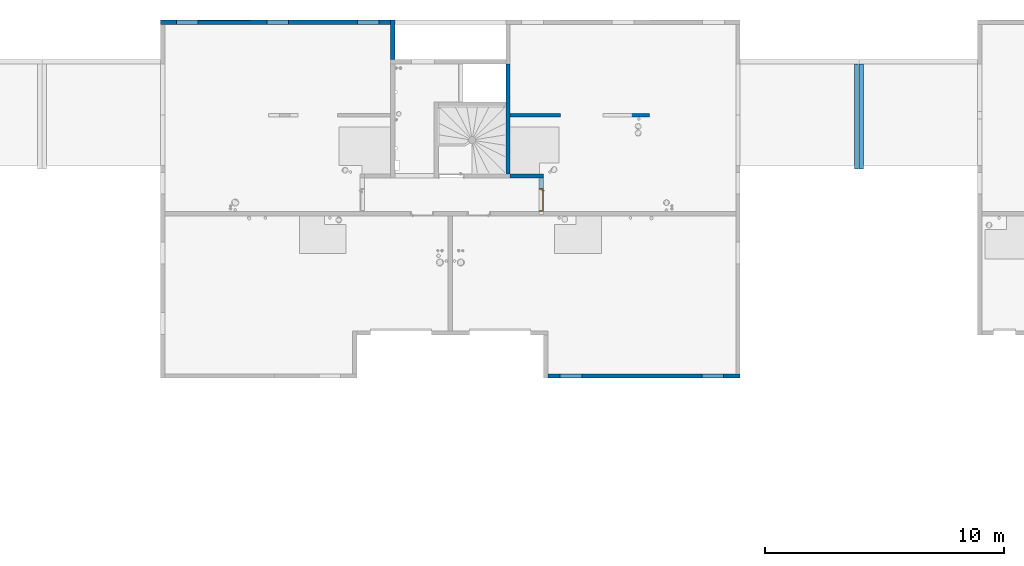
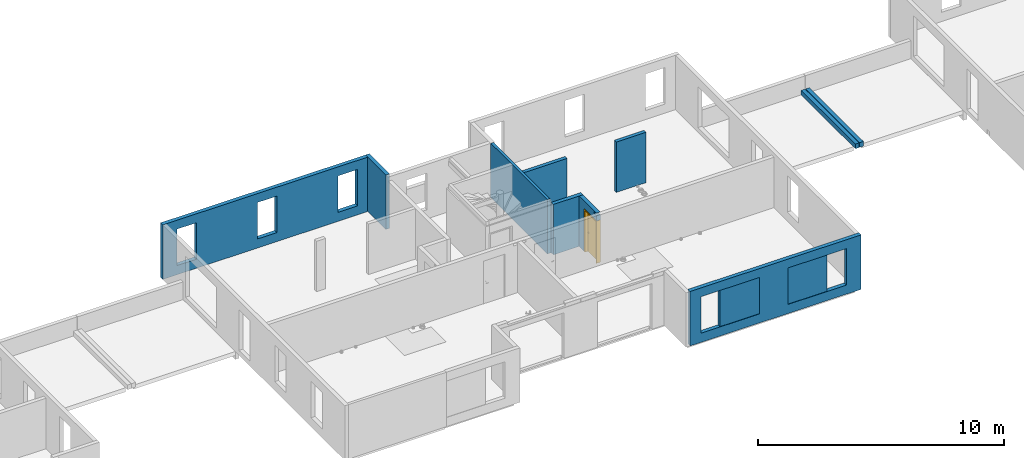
# One storey, part 10 of 24: 10 walls, 1 door, 11 openings.
"""IFC2X3 building model written with IfcOpenShell, lengths in centimetres."""

import ifcopenshell
import ifcopenshell.guid

model = None  # the IFC model being written
_history = None  # IfcOwnerHistory: only IFC2X3 demands one
_inside = {}  # id of a spatial element -> (the spatial element, [elements in it])
_under = {}  # id of a project, library or spatial element -> (it, [spatial elements below it])
_declared = {}  # id of a project -> (the project, [libraries it declares])
_typed = {}  # id of a type object -> (the type object, [elements of that type])
_made_of = {}  # id of a material, layer set ... -> (it, [elements and type objects made of it])


def new_model(schema):
    """Start an empty IFC model of exactly this schema.

    Asked for "IFC4X3", IfcOpenShell would pick the latest addendum, in which some entities
    have other attributes; the version numbers below select the first issue.
    IFC2X3 requires an IfcOwnerHistory on every rooted entity: one is made here for all.
    """
    global model, _history
    if schema == "IFC4X3":
        model = ifcopenshell.file(schema_version=(4, 3, 0, 0))
    else:
        model = ifcopenshell.file(schema=schema)
    _inside.clear()
    _under.clear()
    _declared.clear()
    _typed.clear()
    _made_of.clear()
    _history = None
    if model.schema == "IFC2X3":
        org = make("IfcOrganization", Name="unknown")
        user = make(
            "IfcPersonAndOrganization",
            ThePerson=make("IfcPerson", FamilyName="unknown"),
            TheOrganization=org,
        )
        app = make(
            "IfcApplication",
            ApplicationDeveloper=org,
            Version="unknown",
            ApplicationFullName="unknown",
            ApplicationIdentifier="unknown",
        )
        _history = make(
            "IfcOwnerHistory",
            OwningUser=user,
            OwningApplication=app,
            ChangeAction="ADDED",
            CreationDate=0,
        )
    return model


def make(cls, **values):
    """One entity of the class cls with the attributes given. An attribute that is None is left unset."""
    return model.create_entity(
        cls, **{name: value for name, value in values.items() if value is not None}
    )


def entity(cls, *values):
    """Any entity or typed value of the class cls, its attributes in the order of the schema. None: left unset."""
    e = model.create_entity(cls)
    for i, value in enumerate(values):
        if value is not None:
            e[i] = value
    return e


def rooted(cls, **values):
    """An entity with a GlobalId (a new one), such as an element, a storey or a relation."""
    return make(cls, GlobalId=ifcopenshell.guid.new(), OwnerHistory=_history, **values)


def si_unit(unit_type, name, prefix=None):
    """IfcSIUnit, for example si_unit("LENGTHUNIT", "METRE", prefix="MILLI")."""
    return make("IfcSIUnit", UnitType=unit_type, Prefix=prefix, Name=name)


def converted_unit(unit_type, name, factor, base, dimensions=None, offset=None):
    """IfcConversionBasedUnit, such as the inch: factor (a typed value) times the base unit."""
    return make(
        "IfcConversionBasedUnit"
        if offset is None
        else "IfcConversionBasedUnitWithOffset",
        ConversionOffset=offset,
        Dimensions=None
        if dimensions is None
        else entity("IfcDimensionalExponents", *dimensions),
        UnitType=unit_type,
        Name=name,
        ConversionFactor=make(
            "IfcMeasureWithUnit", ValueComponent=factor, UnitComponent=base
        ),
    )


def derived_unit(unit_type, elements):
    """IfcDerivedUnit: a product of units, each with its exponent."""
    return make(
        "IfcDerivedUnit",
        Elements=[
            make("IfcDerivedUnitElement", Unit=unit, Exponent=power)
            for unit, power in elements
        ],
        UnitType=unit_type,
    )


def assignment(units):
    """IfcUnitAssignment: the units of a project."""
    return None if units is None else make("IfcUnitAssignment", Units=units)


def point(xyz):
    """IfcCartesianPoint."""
    return None if xyz is None else make("IfcCartesianPoint", Coordinates=xyz)


def direction(xyz):
    """IfcDirection."""
    return None if xyz is None else make("IfcDirection", DirectionRatios=xyz)


def frame(location, z_axis=None, x_axis=None):
    """IfcAxis2Placement3D, a coordinate frame: its origin and axes. An axis left out is left unset."""
    return make(
        "IfcAxis2Placement3D",
        Location=point(location),
        Axis=direction(z_axis),
        RefDirection=direction(x_axis),
    )


def frame_2d(location, x_axis=None):
    """IfcAxis2Placement2D, a coordinate frame in the plane: its origin and x axis."""
    return make(
        "IfcAxis2Placement2D", Location=point(location), RefDirection=direction(x_axis)
    )


def origin():
    """The frame at (0, 0, 0) with its axes left unset."""
    return frame((0.0, 0.0, 0.0))


def place(relative_to, where):
    """IfcLocalPlacement: puts the frame where relative to a parent placement (None: the world)."""
    return make(
        "IfcLocalPlacement", PlacementRelTo=relative_to, RelativePlacement=where
    )


def context(
    kind, dimensions, precision=None, world=None, true_north=None, identifier=None
):
    """IfcGeometricRepresentationContext, for example the 3D "Model" context."""
    return make(
        "IfcGeometricRepresentationContext",
        ContextIdentifier=identifier,
        ContextType=kind,
        CoordinateSpaceDimension=dimensions,
        Precision=precision,
        WorldCoordinateSystem=world,
        TrueNorth=true_north,
    )


def subcontext(parent, identifier, kind, view, scale=None):
    """IfcGeometricRepresentationSubContext, for example "Body" below "Model"."""
    return make(
        "IfcGeometricRepresentationSubContext",
        ContextIdentifier=identifier,
        ContextType=kind,
        ParentContext=parent,
        TargetScale=scale,
        TargetView=view,
    )


def project(units=None, contexts=None):
    """IfcProject with its units and contexts."""
    return rooted(
        "IfcProject",
        Name="project",
        RepresentationContexts=contexts,
        UnitsInContext=assignment(units),
    )


def spatial(cls, under=None, at=None, **own):
    """A site, building, storey or space (cls), placed at a placement, below another one or the project."""
    s = rooted(cls, ObjectPlacement=at, **own)
    if under is not None:
        _under.setdefault(under.id(), (under, []))[1].append(s)
    return s


def polyline(points):
    """IfcPolyline through the points."""
    return make("IfcPolyline", Points=[point(p) for p in points])


def profile(cls, at=None, kind="AREA", **sizes):
    """A parametric profile (cls). Its sizes go by their IFC names, for example OverallWidth=200.0."""
    return make(cls, ProfileType=kind, Position=at, **sizes)


def rectangle(**sizes):
    """IfcRectangleProfileDef."""
    return profile("IfcRectangleProfileDef", **sizes)


def extrude(swept, where, along, depth):
    """IfcExtrudedAreaSolid: the profile swept, set in the frame where, extruded along a direction by depth."""
    return make(
        "IfcExtrudedAreaSolid",
        SweptArea=swept,
        Position=where,
        ExtrudedDirection=direction(along),
        Depth=depth,
    )


def clip(a, b, op="DIFFERENCE"):
    """IfcBooleanClippingResult: the solid a cut by the half space b."""
    return make(
        "IfcBooleanClippingResult", Operator=op, FirstOperand=a, SecondOperand=b
    )


def bounded_halfspace(plane, agree, where, boundary):
    """IfcPolygonalBoundedHalfSpace: a half space limited to a polygon's prism."""
    return make(
        "IfcPolygonalBoundedHalfSpace",
        BaseSurface=make("IfcPlane", Position=plane),
        AgreementFlag=agree,
        Position=where,
        PolygonalBoundary=boundary,
    )


def faces_of(points, faces, orient=None, outer=None):
    """IfcFace entities. A face is a list of loops; a loop is a list of indices into points, from 0.

    orient and outer hold one flag for each loop. By default every Orientation is true, the
    first loop of a face is its IfcFaceOuterBound and the others are IfcFaceBound.
    """
    made = []
    for i, loops in enumerate(faces):
        bounds = []
        for j, loop in enumerate(loops):
            is_outer = j == 0 if outer is None else outer[i][j]
            bounds.append(
                make(
                    "IfcFaceOuterBound" if is_outer else "IfcFaceBound",
                    Bound=make("IfcPolyLoop", Polygon=[points[k] for k in loop]),
                    Orientation=True if orient is None else orient[i][j],
                )
            )
        made.append(make("IfcFace", Bounds=bounds))
    return made


def faceted_brep(points, faces, orient=None, outer=None, voids=None):
    """IfcFacetedBrep: a solid bounded by flat faces; with voids (closed shells), ...WithVoids."""
    shared = [point(p) for p in points]
    hull = make("IfcClosedShell", CfsFaces=faces_of(shared, faces, orient, outer))
    if voids is None:
        return make("IfcFacetedBrep", Outer=hull)
    return make(
        "IfcFacetedBrepWithVoids",
        Outer=hull,
        Voids=[
            make(cls, CfsFaces=faces_of(shared, fs, o, b)) for cls, fs, o, b in voids
        ],
    )


def shape(context_of_items, identifier, shape_type, items):
    """IfcShapeRepresentation: the items that make up one representation, for example the "Body"."""
    return make(
        "IfcShapeRepresentation",
        ContextOfItems=context_of_items,
        RepresentationIdentifier=identifier,
        RepresentationType=shape_type,
        Items=items,
    )


def source(mapping_origin, context_of_items, identifier, shape_type, items):
    """IfcRepresentationMap: a shape defined once, which mapped items show again and again."""
    return make(
        "IfcRepresentationMap",
        MappingOrigin=mapping_origin,
        MappedRepresentation=shape(context_of_items, identifier, shape_type, items),
    )


def transform(
    local_origin,
    x_axis=None,
    y_axis=None,
    z_axis=None,
    scale=None,
    scale2=None,
    scale3=None,
    uniform=True,
):
    """IfcCartesianTransformationOperator3D, or its non-uniform kind. x_axis, y_axis, z_axis: its Axis1, 2, 3."""
    if uniform:
        return make(
            "IfcCartesianTransformationOperator3D",
            Axis1=direction(x_axis),
            Axis2=direction(y_axis),
            LocalOrigin=point(local_origin),
            Scale=scale,
            Axis3=direction(z_axis),
        )
    return make(
        "IfcCartesianTransformationOperator3DnonUniform",
        Axis1=direction(x_axis),
        Axis2=direction(y_axis),
        LocalOrigin=point(local_origin),
        Scale=scale,
        Axis3=direction(z_axis),
        Scale2=scale2,
        Scale3=scale3,
    )


def mapped(mapping_source, mapping_target):
    """IfcMappedItem: shows the shape of a source again, moved by a transform."""
    return make(
        "IfcMappedItem", MappingSource=mapping_source, MappingTarget=mapping_target
    )


def material(Name=None, Category=None):
    """IfcMaterial."""
    return make("IfcMaterial", Name=Name, Category=Category)


def material_list(materials):
    """IfcMaterialList."""
    return make("IfcMaterialList", Materials=materials)


def layer(
    of_material, thickness, ventilated=None, Name=None, Category=None, Priority=None
):
    """IfcMaterialLayer: one layer of a wall or slab, of a material (None: an air gap)."""
    return make(
        "IfcMaterialLayer",
        Material=of_material,
        LayerThickness=thickness,
        IsVentilated=ventilated,
        Name=Name,
        Category=Category,
        Priority=Priority,
    )


def layer_set(layers, Name=None):
    """IfcMaterialLayerSet."""
    return make("IfcMaterialLayerSet", MaterialLayers=layers, LayerSetName=Name)


def layer_usage(for_layer_set, set_direction, sense, offset, extent=None):
    """IfcMaterialLayerSetUsage: how a layer set lies in its element."""
    return make(
        "IfcMaterialLayerSetUsage",
        ForLayerSet=for_layer_set,
        LayerSetDirection=set_direction,
        DirectionSense=sense,
        OffsetFromReferenceLine=offset,
        ReferenceExtent=extent,
    )


def made_of(thing, what):
    """Note that an element or type object is made of a material, layer set ...; save() writes the relation."""
    if what is not None:
        _made_of.setdefault(what.id(), (what, []))[1].append(thing)
    return thing


def type_object(cls, material=None, **own):
    """A type object (cls), such as IfcWallType, which elements share."""
    return made_of(rooted(cls, **own), material)


def type_shapes(of_type, sources):
    """Give a type object the sources (RepresentationMaps) that its elements show as mapped items."""
    of_type.RepresentationMaps = sources


def element(
    cls,
    number,
    at=None,
    inside=None,
    cuts=None,
    type_object=None,
    material=None,
    context=None,
    identifier="Body",
    shape_type=None,
    held_by="IfcProductDefinitionShape",
    body=None,
    shapes=None,
    **own,
):
    """One element of the class cls, such as IfcWall. Its Tag is "e" and its number.

    at: its placement. inside: the storey or other place that contains it. cuts: it is an
    opening in that element (IfcRelVoidsElement). A single representation is given by context,
    identifier, shape_type and body (its items); several are given by shapes. held_by: the class
    of the entity that holds the representations. save() writes the other relations.
    """
    e = rooted(cls, Tag="e%d" % number, ObjectPlacement=at, **own)
    if body is not None:
        shapes = [shape(context, identifier, shape_type, body)]
    if shapes is not None:
        e.Representation = make(held_by, Representations=shapes)
    if inside is not None:
        _inside.setdefault(inside.id(), (inside, []))[1].append(e)
    if cuts is not None:
        rooted(
            "IfcRelVoidsElement", RelatingBuildingElement=cuts, RelatedOpeningElement=e
        )
    if type_object is not None:
        _typed.setdefault(type_object.id(), (type_object, []))[1].append(e)
    return made_of(e, material)


def fill(opening, filler):
    """IfcRelFillsElement: the door or window that sits in an opening."""
    return rooted(
        "IfcRelFillsElement",
        RelatingOpeningElement=opening,
        RelatedBuildingElement=filler,
    )


def aggregate(whole, parts):
    """IfcRelAggregates: a whole, such as a stair, and the parts it consists of."""
    return rooted("IfcRelAggregates", RelatingObject=whole, RelatedObjects=parts)


def save(model, path):
    """Write the relations noted so far, then the file.

    IfcRelAggregates (storeys below a building ...), IfcRelContainedInSpatialStructure (elements
    in a storey), IfcRelDefinesByType, IfcRelAssociatesMaterial and IfcRelDeclares: one each for
    every whole, place, type object, material and project.
    """
    for whole, parts in _under.values():
        aggregate(whole, parts)
    for where, things in _inside.values():
        rooted(
            "IfcRelContainedInSpatialStructure",
            RelatedElements=things,
            RelatingStructure=where,
        )
    for kind, things in _typed.values():
        rooted("IfcRelDefinesByType", RelatedObjects=things, RelatingType=kind)
    for what, things in _made_of.values():
        rooted("IfcRelAssociatesMaterial", RelatedObjects=things, RelatingMaterial=what)
    for by, libraries in _declared.values():
        rooted("IfcRelDeclares", RelatingContext=by, RelatedDefinitions=libraries)
    model.write(path)


model = new_model("IFC2X3")

# Units and contexts
model_context = context("Model", 3, precision=0.001, world=origin(), true_north=direction((6.12303176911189e-17, 1.0)))
body_context = subcontext(model_context, "Body", "Model", "MODEL_VIEW")
ifc_project = project(units=[si_unit("LENGTHUNIT", "METRE", prefix="CENTI"), si_unit("AREAUNIT", "SQUARE_METRE"), si_unit("VOLUMEUNIT", "CUBIC_METRE"), converted_unit("PLANEANGLEUNIT", "DEGREE", entity("IfcRatioMeasure", 0.0174532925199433), si_unit("PLANEANGLEUNIT", "RADIAN"), dimensions=[0, 0, 0, 0, 0, 0, 0]), si_unit("MASSUNIT", "GRAM", prefix="KILO"), derived_unit("MASSDENSITYUNIT", [(si_unit("MASSUNIT", "GRAM", prefix="KILO"), 1), (si_unit("LENGTHUNIT", "METRE"), -3)]), si_unit("TIMEUNIT", "SECOND"), si_unit("FREQUENCYUNIT", "HERTZ"), si_unit("THERMODYNAMICTEMPERATUREUNIT", "DEGREE_CELSIUS"), derived_unit("THERMALTRANSMITTANCEUNIT", [(si_unit("MASSUNIT", "GRAM", prefix="KILO"), 1), (si_unit("THERMODYNAMICTEMPERATUREUNIT", "KELVIN"), -1), (si_unit("TIMEUNIT", "SECOND"), -3)]), derived_unit("VOLUMETRICFLOWRATEUNIT", [(si_unit("LENGTHUNIT", "METRE"), 3), (si_unit("TIMEUNIT", "SECOND"), -1)]), si_unit("ELECTRICCURRENTUNIT", "AMPERE"), si_unit("ELECTRICVOLTAGEUNIT", "VOLT"), si_unit("POWERUNIT", "WATT"), si_unit("FORCEUNIT", "NEWTON"), si_unit("ILLUMINANCEUNIT", "LUX"), si_unit("LUMINOUSFLUXUNIT", "LUMEN"), si_unit("LUMINOUSINTENSITYUNIT", "CANDELA"), derived_unit("USERDEFINED", [(si_unit("MASSUNIT", "GRAM", prefix="KILO"), -1), (si_unit("LENGTHUNIT", "METRE"), -2), (si_unit("TIMEUNIT", "SECOND"), 3), (si_unit("LUMINOUSFLUXUNIT", "LUMEN"), 1)]), derived_unit("LINEARVELOCITYUNIT", [(si_unit("LENGTHUNIT", "METRE"), 1), (si_unit("TIMEUNIT", "SECOND"), -1)]), si_unit("PRESSUREUNIT", "PASCAL"), derived_unit("USERDEFINED", [(si_unit("LENGTHUNIT", "METRE"), -2), (si_unit("MASSUNIT", "GRAM", prefix="KILO"), 1), (si_unit("TIMEUNIT", "SECOND"), -2)])], contexts=[model_context])

# Site, building, storey
site_placement = place(None, origin())
site = spatial("IfcSite", under=ifc_project, at=site_placement, Name="Default", CompositionType="ELEMENT")
building_placement = place(site_placement, origin())
building = spatial("IfcBuilding", under=site, at=building_placement, Name="CAGE 03", CompositionType="ELEMENT")
storey_placement = place(building_placement, frame((0.0, 0.0, 880.0)))
storey = spatial("IfcBuildingStorey", under=building, at=storey_placement, Name="R+3", CompositionType="ELEMENT", Elevation=880.0)

# Wall, openings
ifc_material_1 = material(Name="Béton, C25/30")
ifc_layer_1 = layer(ifc_material_1, 18.0)
ifc_layer_set_1 = layer_set([ifc_layer_1], Name="Mur de base:Voile BA 18")
ifc_layer_usage_1 = layer_usage(ifc_layer_set_1, "AXIS2", "POSITIVE", -9.0)
wall_type_1 = type_object("IfcWallType", Name="Mur de base:Voile BA 18", PredefinedType="STANDARD", material=ifc_layer_set_1)
wall_1_placement = place(storey_placement, frame((7489.36582014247, 3805.6606660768, 0.0)))
wall_1 = element("IfcWallStandardCase", 1, at=wall_1_placement, inside=storey, type_object=wall_type_1, material=ifc_layer_usage_1, Name="Mur de base:Voile BA 18", ObjectType="Mur de base:Voile BA 18", context=body_context, shape_type="SweptSolid", body=[
    extrude(rectangle(XDim=803.000000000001, YDim=18.0000000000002, at=frame_2d((401.500000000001, -2.8421709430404e-14), x_axis=(-1.0, 0.0))), origin(), (0.0, 0.0, 1.0), 270.0),
])
opening_1_placement = place(wall_1_placement, origin())
element("IfcOpeningElement", 2, at=opening_1_placement, cuts=wall_1, Name="Mur de base:Voile BA 18", ObjectType="Recess", context=body_context, shape_type="SweptSolid", body=[
    extrude(rectangle(XDim=181.0, YDim=184.0, at=frame_2d((-1.06581410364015e-13, 0.0), x_axis=(1.0, 0.0))), frame((234.0, -9.0, 135.5), z_axis=(0.0, 1.0, 0.0), x_axis=(0.0, 0.0, -1.0)), (0.0, 0.0, 1.0), 1.99999999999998),
])
opening_2_placement = place(wall_1_placement, origin())
element("IfcOpeningElement", 3, at=opening_2_placement, cuts=wall_1, Name="Mur de base:Voile BA 18", ObjectType="Recess", context=body_context, shape_type="SweptSolid", body=[
    extrude(rectangle(XDim=181.0, YDim=184.0, at=frame_2d((-1.06581410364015e-13, 0.0), x_axis=(1.0, 0.0))), frame((551.0, -9.0, 135.5), z_axis=(0.0, 1.0, 0.0), x_axis=(0.0, 0.0, -1.0)), (0.0, 0.0, 1.0), 1.99999999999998),
])
opening_3_placement = place(wall_1_placement, origin())
element("IfcOpeningElement", 4, at=opening_3_placement, cuts=wall_1, Name="Mur de base:Voile BA 18", ObjectType="Recess", context=body_context, shape_type="SweptSolid", body=[
    extrude(rectangle(XDim=181.0, YDim=184.0, at=frame_2d((-1.06581410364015e-13, 0.0), x_axis=(1.0, 0.0))), frame((-1050.0, -9.0, 135.5), z_axis=(0.0, 1.0, 0.0), x_axis=(0.0, 0.0, -1.0)), (0.0, 0.0, 1.0), 1.99999999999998),
])
opening_4_placement = place(wall_1_placement, frame((-7489.36582014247, -3805.6606660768, 0.0)))
element("IfcOpeningElement", 5, at=opening_4_placement, cuts=wall_1, Name="Mur de base:Voile BA 18", ObjectType="Opening", context=body_context, shape_type="SweptSolid", body=[
    extrude(rectangle(XDim=181.0, YDim=91.0000000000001, at=frame_2d((0.0, 0.0), x_axis=(0.0, 1.0))), frame((7585.86582014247, 3644.2606660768, 135.5), z_axis=(0.0, 1.0, 0.0), x_axis=(-1.0, 0.0, 0.0)), (0.0, 0.0, 1.0), 304.8),
])
opening_5_placement = place(wall_1_placement, frame((-7489.36582014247, -3805.6606660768, 0.0)))
element("IfcOpeningElement", 6, at=opening_5_placement, cuts=wall_1, Name="Mur de base:Voile BA 18", ObjectType="Opening", context=body_context, shape_type="SweptSolid", body=[
    extrude(rectangle(XDim=181.0, YDim=91.0000000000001, at=frame_2d((0.0, 0.0), x_axis=(0.0, 1.0))), frame((8177.86582014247, 3644.2606660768, 135.5), z_axis=(0.0, 1.0, 0.0), x_axis=(-1.0, 0.0, 0.0)), (0.0, 0.0, 1.0), 304.8),
])

# Wall
ifc_layer_usage_2 = layer_usage(ifc_layer_set_1, "AXIS2", "POSITIVE", -9.0)
wall_2_placement = place(storey_placement, frame((6840.36582014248, 5128.6606660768, 0.0), z_axis=(0.0, 0.0, 1.0), x_axis=(0.0, 1.0, 0.0)))
element("IfcWallStandardCase", 7, at=wall_2_placement, inside=storey, type_object=wall_type_1, material=ifc_layer_usage_2, Name="Mur de base:Voile BA 18", ObjectType="Mur de base:Voile BA 18", context=body_context, shape_type="SweptSolid", body=[
    extrude(rectangle(XDim=165.000000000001, YDim=17.9999999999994, at=frame_2d((82.5000000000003, 1.77635683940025e-15), x_axis=(-1.0, 0.0))), origin(), (0.0, 0.0, 1.0), 270.0),
])

# Wall, openings
ifc_layer_usage_3 = layer_usage(ifc_layer_set_1, "AXIS2", "POSITIVE", -9.0)
wall_3_placement = place(storey_placement, frame((6831.36582014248, 5284.6606660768, 0.0), z_axis=(0.0, 0.0, 1.0), x_axis=(-1.0, 0.0, 0.0)))
wall_3 = element("IfcWallStandardCase", 8, at=wall_3_placement, inside=storey, type_object=wall_type_1, material=ifc_layer_usage_3, Name="Mur de base:Voile BA 18", ObjectType="Mur de base:Voile BA 18", context=body_context, shape_type="SweptSolid", body=[
    extrude(rectangle(XDim=961.0, YDim=17.9999999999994, at=frame_2d((480.5, -1.03028696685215e-13), x_axis=(-1.0, 0.0))), origin(), (0.0, 0.0, 1.0), 270.0),
])
opening_6_placement = place(wall_3_placement, origin())
element("IfcOpeningElement", 9, at=opening_6_placement, cuts=wall_3, Name="Mur de base:Voile BA 18", ObjectType="Recess", context=body_context, shape_type="SweptSolid", body=[
    extrude(rectangle(XDim=181.0, YDim=218.0, at=frame_2d((4.33431068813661e-13, 1.06581410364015e-13), x_axis=(0.0, 1.0))), frame((695.0, -9.0, 135.5), z_axis=(0.0, 1.0, 0.0), x_axis=(1.0, 0.0, 0.0)), (0.0, 0.0, 1.0), 1.99999999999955),
])
opening_7_placement = place(wall_3_placement, frame((6831.36582014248, 5284.6606660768, 0.0), z_axis=(0.0, 0.0, 1.0), x_axis=(-1.0, 0.0, 0.0)))
element("IfcOpeningElement", 10, at=opening_7_placement, cuts=wall_3, Name="Mur de base:Voile BA 18", ObjectType="Opening", context=body_context, shape_type="SweptSolid", body=[
    extrude(rectangle(XDim=181.0, YDim=91.0000000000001, at=frame_2d((0.0, 0.0), x_axis=(0.0, 1.0))), frame((5981.86582014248, 5428.0606660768, 135.5), z_axis=(0.0, -1.0, 0.0), x_axis=(1.0, 0.0, 0.0)), (0.0, 0.0, 1.0), 304.8),
])
opening_8_placement = place(wall_3_placement, frame((6831.36582014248, 5284.6606660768, 0.0), z_axis=(0.0, 0.0, 1.0), x_axis=(-1.0, 0.0, 0.0)))
element("IfcOpeningElement", 11, at=opening_8_placement, cuts=wall_3, Name="Mur de base:Voile BA 18", ObjectType="Opening", context=body_context, shape_type="SweptSolid", body=[
    extrude(rectangle(XDim=181.0, YDim=91.0000000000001, at=frame_2d((0.0, 0.0), x_axis=(0.0, 1.0))), frame((6359.86582014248, 5428.0606660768, 135.5), z_axis=(0.0, -1.0, 0.0), x_axis=(1.0, 0.0, 0.0)), (0.0, 0.0, 1.0), 304.8),
])
opening_9_placement = place(wall_3_placement, frame((6831.36582014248, 5284.6606660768, 0.0), z_axis=(0.0, 0.0, 1.0), x_axis=(-1.0, 0.0, 0.0)))
element("IfcOpeningElement", 12, at=opening_9_placement, cuts=wall_3, Name="Mur de base:Voile BA 18", ObjectType="Opening", context=body_context, shape_type="SweptSolid", body=[
    extrude(rectangle(XDim=181.0, YDim=91.0000000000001, at=frame_2d((0.0, 0.0), x_axis=(0.0, 1.0))), frame((6737.86582014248, 5428.0606660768, 135.5), z_axis=(0.0, -1.0, 0.0), x_axis=(1.0, 0.0, 0.0)), (0.0, 0.0, 1.0), 304.8),
])

# Wall, openings, door
ifc_layer_usage_4 = layer_usage(ifc_layer_set_1, "AXIS2", "NEGATIVE", 9.0)
wall_4_placement = place(storey_placement, frame((7461.36582014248, 4632.6606660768, 0.0), z_axis=(0.0, 0.0, 1.0), x_axis=(0.0, -1.0, 0.0)))
wall_4 = element("IfcWallStandardCase", 13, at=wall_4_placement, inside=storey, type_object=wall_type_1, material=ifc_layer_usage_4, Name="Mur de base:Voile BA 18", ObjectType="Mur de base:Voile BA 18", context=body_context, shape_type="SweptSolid", body=[
    extrude(rectangle(XDim=140.000000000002, YDim=17.9999999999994, at=frame_2d((70.000000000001, 0.0), x_axis=(-1.0, 0.0))), origin(), (0.0, 0.0, 1.0), 250.0),
])
opening_10_placement = place(wall_4_placement, origin())
element("IfcOpeningElement", 14, at=opening_10_placement, cuts=wall_4, Name="Mur de base:Voile BA 18", ObjectType="Opening", context=body_context, shape_type="SweptSolid", body=[
    extrude(rectangle(XDim=9.99999999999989, YDim=19.9999999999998, at=frame_2d((-4.33431068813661e-13, 0.0), x_axis=(0.0, 1.0))), frame((130.0, -9.0, 242.5), z_axis=(0.0, 1.0, 0.0), x_axis=(1.0, 0.0, 0.0)), (0.0, 0.0, 1.0), 17.9999999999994),
])
opening_11_placement = place(wall_4_placement, frame((43.0, -9.0, 0.0)))
opening_11 = element("IfcOpeningElement", 15, at=opening_11_placement, cuts=wall_4, Name="Int. Simple:HB93:1", ObjectType="Opening", context=body_context, shape_type="SweptSolid", body=[
    extrude(rectangle(XDim=210.000000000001, YDim=96.9999999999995, at=frame_2d((105.000000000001, 48.4999999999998), x_axis=(1.0, 0.0))), frame((0.0, 0.0, 0.0), z_axis=(0.0, 1.0, 0.0), x_axis=(0.0, 0.0, 1.0)), (0.0, 0.0, 1.0), 18.0),
])
ifc_material_2 = material(Name="Finition Peinture - Blanc satiné")
ifc_material_3 = material(Name="Bois - Panneau de porte")
ifc_material_4 = material(Name="Bois - Cadre de porte")
ifc_material_list_1 = material_list([ifc_material_2, ifc_material_3, ifc_material_4])
ifc_material_list_2 = material_list([ifc_material_2, ifc_material_3, ifc_material_4])
door_style = type_object("IfcDoorStyle", Name="HB93", ConstructionType="NOTDEFINED", OperationType="SINGLE_SWING_RIGHT", ParameterTakesPrecedence=False, Sizeable=False, material=ifc_material_list_2)
shared_shape = source(origin(), body_context, "Body", "Brep", [
    faceted_brep([(96.5000000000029, -0.500000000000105, 87.0), (96.5000000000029, -0.500000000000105, 108.0), (95.535276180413, -0.500000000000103, 108.399601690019), (94.5000000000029, -0.500000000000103, 108.535898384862), (93.4647238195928, -0.500000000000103, 108.399601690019), (92.5000000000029, -0.500000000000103, 108.0), (92.5000000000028, -0.500000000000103, 87.0), (93.4647238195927, -0.500000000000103, 86.6003983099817), (94.5000000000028, -0.500000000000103, 86.464101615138), (95.5352761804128, -0.500000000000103, 86.6003983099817), (96.5000000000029, 0.0, 108.0), (96.5000000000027, 0.0, 87.0), (95.5352761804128, 0.0, 86.6003983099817), (94.5000000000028, 0.0, 86.464101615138), (93.4647238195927, 0.0, 86.6003983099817), (92.5000000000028, 0.0, 87.0), (92.5000000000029, 0.0, 108.0), (93.4647238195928, 0.0, 108.399601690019), (94.5000000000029, 0.0, 108.535898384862), (95.535276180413, 0.0, 108.399601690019)], [[[0, 1, 2, 3, 4, 5, 6, 7, 8, 9]], [[10, 11, 12, 13, 14, 15, 16, 17, 18, 19]], [[9, 12, 11, 0]], [[8, 13, 12, 9]], [[7, 14, 13, 8]], [[7, 6, 15, 14]], [[15, 6, 5, 16]], [[4, 17, 16, 5]], [[3, 18, 17, 4]], [[2, 19, 18, 3]], [[2, 1, 10, 19]], [[11, 10, 1, 0]]]),
    faceted_brep([(96.5000000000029, 4.0, 87.0), (96.5000000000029, 4.0, 108.0), (95.535276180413, 4.0, 108.399601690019), (94.5000000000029, 4.0, 108.535898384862), (93.4647238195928, 4.0, 108.399601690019), (92.500000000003, 4.0, 108.0), (92.5000000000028, 4.0, 87.0), (93.4647238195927, 4.0, 86.6003983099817), (94.5000000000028, 4.0, 86.464101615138), (95.5352761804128, 4.0, 86.6003983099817), (94.5000000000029, 4.49999999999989, 108.535898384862), (95.535276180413, 4.49999999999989, 108.399601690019), (96.5000000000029, 4.49999999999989, 108.0), (96.5000000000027, 4.49999999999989, 87.0), (95.5352761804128, 4.49999999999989, 86.6003983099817), (94.5000000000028, 4.49999999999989, 86.464101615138), (93.4647238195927, 4.49999999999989, 86.6003983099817), (92.5000000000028, 4.4999999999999, 87.0), (92.5000000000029, 4.4999999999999, 108.0), (93.4647238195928, 4.49999999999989, 108.399601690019)], [[[0, 1, 2, 3, 4, 5, 6, 7, 8, 9]], [[10, 11, 12, 13, 14, 15, 16, 17, 18, 19]], [[4, 19, 18, 5]], [[3, 10, 19, 4]], [[2, 11, 10, 3]], [[2, 1, 12, 11]], [[13, 12, 1, 0]], [[9, 14, 13, 0]], [[8, 15, 14, 9]], [[7, 16, 15, 8]], [[7, 6, 17, 16]], [[17, 6, 5, 18]]]),
    faceted_brep([(94.2974701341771, -0.500000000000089, 100.778044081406), (94.7025298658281, -0.500000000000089, 100.778044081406), (95.100000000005, -0.500000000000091, 100.699999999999), (95.100000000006, -0.500000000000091, 99.2999999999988), (94.7025298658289, -0.500000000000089, 99.221955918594), (94.297470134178, -0.500000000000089, 99.2219559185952), (93.9000000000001, -0.500000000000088, 99.3000000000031), (93.9000000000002, -0.500000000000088, 100.7), (94.7025298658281, -3.10045754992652, 100.778044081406), (95.1000000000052, -3.26509507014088, 100.7), (94.2974701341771, -2.93267631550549, 100.778044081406), (92.9298602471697, -4.30028620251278, 100.778044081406), (93.0976414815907, -4.70534593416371, 100.778044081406), (93.9000000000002, -2.76803879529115, 100.7), (93.9000000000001, -2.76803879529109, 99.3000000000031), (94.297470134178, -2.93267631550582, 99.2219559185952), (94.7025298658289, -3.10045754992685, 99.221955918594), (93.0976414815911, -4.70534593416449, 99.221955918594), (92.9298602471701, -4.30028620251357, 99.2219559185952), (95.100000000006, -3.26509507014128, 99.2999999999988), (93.2622790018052, -5.1028160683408, 100.7), (92.7652227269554, -3.90281606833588, 100.7), (92.7652227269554, -3.90281606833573, 99.3000000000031), (93.2622790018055, -5.10281606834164, 99.2999999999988), (84.4981359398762, -5.10281606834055, 100.7), (84.4981359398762, -4.70534593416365, 100.778044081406), (84.4981359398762, -4.30028620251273, 100.778044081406), (84.4981359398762, -3.90281606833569, 100.699999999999), (84.4981359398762, -3.90281606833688, 99.3000000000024), (84.4981359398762, -4.30028620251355, 99.2219559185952), (84.4981359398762, -4.70534593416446, 99.221955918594), (84.4981359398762, -5.10281606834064, 99.2999999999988), (88.7139980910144, -4.5028160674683, 100.78786867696), (89.2692302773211, -5.1028160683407, 100.7), (88.6316793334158, -3.90281606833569, 100.7), (88.631679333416, -3.90281606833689, 99.3000000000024), (88.7139981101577, -4.50281607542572, 99.2121313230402), (89.2692310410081, -5.10281606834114, 99.2999999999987)], [[[0, 1, 2, 3, 4, 5, 6, 7]], [[2, 1, 8, 9]], [[1, 0, 10, 11, 12, 8]], [[0, 7, 13, 10]], [[14, 13, 7, 6]], [[5, 15, 14, 6]], [[5, 4, 16, 17, 18, 15]], [[3, 19, 16, 4]], [[9, 19, 3, 2]], [[9, 8, 12, 20]], [[10, 13, 21, 11]], [[22, 21, 13, 14]], [[14, 15, 18, 22]], [[16, 19, 23, 17]], [[20, 23, 19, 9]], [[24, 25, 26, 27, 28, 29, 30, 31]], [[32, 25, 33]], [[33, 25, 24]], [[33, 20, 12]], [[11, 34, 32]], [[34, 11, 21]], [[27, 26, 34]], [[32, 26, 25]], [[32, 34, 26]], [[32, 33, 12]], [[11, 32, 12]], [[21, 22, 35, 28, 27, 34]], [[36, 29, 35]], [[30, 36, 37]], [[18, 35, 22]], [[29, 28, 35]], [[30, 37, 31]], [[37, 17, 23]], [[36, 17, 37]], [[36, 18, 17]], [[36, 35, 18]], [[29, 36, 30]], [[23, 20, 33, 24, 31, 37]]]),
    faceted_brep([(94.2974701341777, 4.49999999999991, 99.2219559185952), (94.7025298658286, 4.49999999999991, 99.221955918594), (95.1000000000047, 4.49999999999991, 99.2999999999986), (95.1000000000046, 4.49999999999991, 100.7), (94.7025298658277, 4.49999999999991, 100.778044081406), (94.2974701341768, 4.49999999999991, 100.778044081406), (93.8999999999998, 4.49999999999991, 100.7), (93.900000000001, 4.49999999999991, 99.3000000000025), (93.8999999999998, 6.7485204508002, 100.7), (93.8999999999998, 6.74852045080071, 99.3000000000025), (94.2974701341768, 6.91315797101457, 100.778044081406), (94.7025298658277, 7.0809392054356, 100.778044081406), (93.0838906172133, 8.69957845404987, 100.778044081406), (92.9161093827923, 8.29451872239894, 100.778044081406), (95.1000000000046, 7.24557672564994, 100.7), (95.1000000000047, 7.24557672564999, 99.2999999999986), (94.7025298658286, 7.08093920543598, 99.221955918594), (94.2974701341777, 6.91315797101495, 99.2219559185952), (92.9161093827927, 8.29451872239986, 99.2219559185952), (93.0838906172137, 8.69957845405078, 99.221955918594), (92.751471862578, 7.89704858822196, 100.7), (92.7514718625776, 7.89704858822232, 99.3000000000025), (93.2485281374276, 9.09704858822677, 100.7), (93.2485281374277, 9.09704858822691, 99.2999999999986), (84.4954216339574, 8.29451872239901, 100.778044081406), (84.4954216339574, 8.69957845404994, 100.778044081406), (84.4954216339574, 9.09704858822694, 100.7), (84.4954216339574, 9.09704858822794, 99.2999999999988), (84.4954216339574, 8.6995784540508, 99.221955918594), (84.4954216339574, 8.29451872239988, 99.2219559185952), (84.4954216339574, 7.89704858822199, 99.3000000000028), (84.4954216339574, 7.89704858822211, 100.7), (88.6234467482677, 7.89704858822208, 100.7), (88.6234479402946, 7.89704858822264, 99.3000000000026), (88.7057655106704, 8.49704858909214, 100.78786867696), (89.255479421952, 9.09704858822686, 100.7), (89.2554795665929, 9.09704858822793, 99.2999999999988), (88.7057654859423, 8.49704858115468, 99.2121313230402)], [[[0, 1, 2, 3, 4, 5, 6, 7]], [[8, 9, 7, 6]], [[5, 10, 8, 6]], [[5, 4, 11, 12, 13, 10]], [[3, 14, 11, 4]], [[14, 3, 2, 15]], [[2, 1, 16, 15]], [[1, 0, 17, 18, 19, 16]], [[0, 7, 9, 17]], [[20, 21, 9, 8]], [[8, 10, 13, 20]], [[14, 22, 12, 11]], [[23, 22, 14, 15]], [[15, 16, 19, 23]], [[17, 9, 21, 18]], [[24, 25, 26, 27, 28, 29, 30, 31]], [[21, 20, 32, 31, 30, 33]], [[34, 24, 32]], [[25, 34, 35]], [[13, 32, 20]], [[24, 31, 32]], [[25, 35, 26]], [[35, 12, 22]], [[34, 12, 35]], [[34, 13, 12]], [[34, 32, 13]], [[24, 34, 25]], [[22, 23, 36, 27, 26, 35]], [[37, 28, 36]], [[36, 28, 27]], [[36, 23, 19]], [[18, 33, 37]], [[33, 18, 21]], [[30, 29, 33]], [[37, 29, 28]], [[37, 33, 29]], [[37, 36, 19]], [[18, 37, 19]]]),
    faceted_brep([(100.500000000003, 4.0, 206.5), (100.500000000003, 4.0, 0.0), (10.5000000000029, 4.0, 0.0), (10.5000000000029, 4.0, 206.5), (100.500000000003, 0.0, 206.5), (10.5000000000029, 0.0, 206.5), (10.5000000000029, 0.0, 0.0), (100.500000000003, 0.0, 0.0)], [[[0, 1, 2, 3]], [[4, 5, 6, 7]], [[3, 5, 4, 0]], [[2, 6, 5, 3]], [[1, 7, 6, 2]], [[0, 4, 7, 1]]]),
    faceted_brep([(104.0, 0.0, 0.0), (100.500000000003, 0.0, 0.0), (100.500000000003, 4.0, 0.0), (99.0, 4.0, 0.0), (99.0, 18.0, 0.0), (104.0, 18.0, 0.0), (104.0, 18.0, 210.0), (104.0, 0.0, 210.0), (99.0, 18.0, 205.0), (12.0, 18.0, 205.0), (12.0, 18.0, 0.0), (7.0, 18.0, 0.0), (7.0, 18.0, 210.0), (99.0, 4.0, 205.0), (100.500000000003, 4.0, 206.5), (10.5000000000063, 4.0, 206.5), (10.5000000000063, 4.0, 0.0), (12.0, 4.0, 0.0), (12.0, 4.0, 205.0), (100.500000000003, 0.0, 206.5), (7.0, 0.0, 210.0), (7.0, 0.0, 0.0), (10.5000000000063, 0.0, 0.0), (10.5000000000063, 0.0, 206.5)], [[[0, 1, 2, 3, 4, 5]], [[5, 6, 7, 0]], [[4, 8, 9, 10, 11, 12, 6, 5]], [[3, 13, 8, 4]], [[2, 14, 15, 16, 17, 18, 13, 3]], [[1, 19, 14, 2]], [[0, 7, 20, 21, 22, 23, 19, 1]], [[12, 11, 21, 20]], [[21, 11, 10, 17, 16, 22]], [[18, 17, 10, 9]], [[23, 22, 16, 15]], [[6, 12, 20, 7]], [[13, 18, 9, 8]], [[19, 23, 15, 14]]]),
    faceted_brep([(102.500000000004, 18.0, 0.0), (102.500000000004, 18.5000000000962, 0.0), (105.500000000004, 18.5000000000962, 0.0), (105.500000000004, 18.0, 0.0), (105.500000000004, 18.0, 211.500000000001), (5.50000000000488, 18.0, 211.500000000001), (5.50000000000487, 18.0, 0.0), (8.50000000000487, 18.0, 0.0), (8.50000000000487, 18.0, 208.500000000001), (102.500000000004, 18.0, 208.500000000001), (105.500000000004, 18.5000000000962, 211.500000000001), (102.500000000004, 18.5000000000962, 208.500000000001), (8.50000000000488, 18.5000000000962, 208.500000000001), (8.50000000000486, 18.5000000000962, 0.0), (5.50000000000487, 18.5000000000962, 0.0), (5.50000000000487, 18.5000000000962, 211.500000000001)], [[[0, 1, 2, 3]], [[3, 4, 5, 6, 7, 8, 9, 0]], [[2, 10, 4, 3]], [[1, 11, 12, 13, 14, 15, 10, 2]], [[0, 9, 11, 1]], [[7, 6, 14, 13]], [[8, 7, 13, 12]], [[15, 14, 6, 5]], [[10, 15, 5, 4]], [[9, 8, 12, 11]]]),
    faceted_brep([(105.500000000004, -0.5, 0.0), (105.500000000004, -0.5, 211.500000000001), (5.50000000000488, -0.5, 211.500000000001), (5.50000000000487, -0.5, 0.0), (8.50000000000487, -0.5, 0.0), (8.50000000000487, -0.5, 208.500000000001), (102.500000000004, -0.5, 208.500000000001), (102.500000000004, -0.5, 0.0), (105.500000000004, 0.0, 0.0), (105.500000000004, 0.0, 211.500000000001), (102.500000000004, 0.0, 0.0), (102.500000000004, 0.0, 208.500000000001), (8.50000000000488, 0.0, 208.500000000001), (8.50000000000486, 0.0, 0.0), (5.50000000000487, 0.0, 0.0), (5.50000000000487, 0.0, 211.500000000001)], [[[0, 1, 2, 3, 4, 5, 6, 7]], [[8, 9, 1, 0]], [[10, 11, 12, 13, 14, 15, 9, 8]], [[7, 6, 11, 10]], [[5, 4, 13, 12]], [[15, 14, 3, 2]], [[9, 15, 2, 1]], [[6, 5, 12, 11]], [[4, 3, 14, 13]], [[7, 10, 8, 0]]]),
])
type_shapes(door_style, [shared_shape])
door_placement = place(opening_11_placement, frame((104.0, 18.0, 0.0), z_axis=(0.0, 0.0, 1.0), x_axis=(-1.0, 0.0, 0.0)))
door = element("IfcDoor", 16, at=door_placement, inside=storey, type_object=door_style, material=ifc_material_list_1, Name="Int. Simple:HB93", ObjectType="HB93", OverallHeight=210.000000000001, OverallWidth=96.9999999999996, context=body_context, shape_type="MappedRepresentation", body=[
    mapped(shared_shape, transform((0.0, 0.0, 0.0), scale=1.0)),
])
fill(opening_11, door)

# Walls
ifc_layer_usage_5 = layer_usage(ifc_layer_set_1, "AXIS2", "NEGATIVE", 9.0)
wall_5_placement = place(storey_placement, frame((7331.36582014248, 4641.6606660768, 0.0)))
element("IfcWallStandardCase", 17, at=wall_5_placement, inside=storey, type_object=wall_type_1, material=ifc_layer_usage_5, Name="Mur de base:Voile BA 18", ObjectType="Mur de base:Voile BA 18", context=body_context, shape_type="SweptSolid", body=[
    extrude(rectangle(XDim=138.999999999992, YDim=17.9999999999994, at=frame_2d((69.4999999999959, -4.17443857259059e-14), x_axis=(-1.0, 0.0))), origin(), (0.0, 0.0, 1.0), 250.0),
])
ifc_layer_usage_6 = layer_usage(ifc_layer_set_1, "AXIS2", "NEGATIVE", 9.0)
wall_6_placement = place(storey_placement, frame((8778.36582014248, 5110.6606660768, 0.0), z_axis=(0.0, 0.0, 1.0), x_axis=(0.0, -1.0, 0.0)))
element("IfcWallStandardCase", 18, at=wall_6_placement, inside=storey, type_object=wall_type_1, material=ifc_layer_usage_6, Name="Mur de base:Voile BA 18", ObjectType="Mur de base:Voile BA 18", context=body_context, shape_type="SweptSolid", body=[
    extrude(rectangle(XDim=439.999999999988, YDim=17.9999999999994, at=frame_2d((219.999999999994, -4.03233002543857e-13), x_axis=(-1.0, 0.0))), origin(), (0.0, 0.0, 1.0), 22.9999999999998),
])
ifc_layer_usage_7 = layer_usage(ifc_layer_set_1, "AXIS2", "POSITIVE", -9.0)
wall_7_placement = place(storey_placement, frame((8798.36582014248, 5110.6606660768, 0.0), z_axis=(0.0, 0.0, 1.0), x_axis=(0.0, -1.0, 0.0)))
element("IfcWallStandardCase", 19, at=wall_7_placement, inside=storey, type_object=wall_type_1, material=ifc_layer_usage_7, Name="Mur de base:Voile BA 18", ObjectType="Mur de base:Voile BA 18", context=body_context, shape_type="SweptSolid", body=[
    extrude(rectangle(XDim=439.999999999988, YDim=17.9999999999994, at=frame_2d((219.999999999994, -4.08562073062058e-13), x_axis=(-1.0, 0.0))), origin(), (0.0, 0.0, 1.0), 22.9999999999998),
])
ifc_material_5 = material(Name="Béton, panneaux préfa 30/37")
ifc_layer_2 = layer(ifc_material_5, 5.5)
ifc_layer_3 = layer(ifc_material_1, 7.0)
ifc_layer_4 = layer(ifc_material_5, 5.5)
ifc_layer_set_2 = layer_set([ifc_layer_2, ifc_layer_3, ifc_layer_4], Name="Mur de base:premur 18")
ifc_layer_usage_8 = layer_usage(ifc_layer_set_2, "AXIS2", "POSITIVE", -9.0)
wall_type_2 = type_object("IfcWallType", Name="Mur de base:premur 18", PredefinedType="NOTDEFINED")
wall_8_placement = place(storey_placement, frame((7322.36582014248, 4650.6606660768, 0.0), z_axis=(0.0, 0.0, 1.0), x_axis=(0.0, 1.0, 0.0)))
element("IfcWallStandardCase", 20, at=wall_8_placement, inside=storey, type_object=wall_type_2, material=ifc_layer_usage_8, Name="Mur de base:premur 18", ObjectType="Mur de base:premur 18", context=body_context, shape_type="Clipping", body=[
    clip(clip(extrude(rectangle(XDim=459.999999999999, YDim=17.9999999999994, at=frame_2d((230.0, 7.72715225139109e-14), x_axis=(-1.0, 0.0))), origin(), (0.0, 0.0, 1.0), 270.0), bounded_halfspace(frame((460.0, -3.49999999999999, 250.0), z_axis=(0.0, 0.0, -1.0), x_axis=(0.0, 1.0, 0.0)), True, frame((460.0, -3.49999999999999, 250.0), z_axis=(0.0, 0.0, -1.0), x_axis=(0.0, 1.0, 0.0)), polyline([(0.0, 0.0), (-5.50000000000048, 0.0), (-5.50000000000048, -207.0), (-5.50000000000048, -223.0), (-5.49999999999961, -460.0), (0.0, -460.0), (0.0, 0.0)]))), bounded_halfspace(frame((0.0, -3.50000000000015, 250.0), z_axis=(0.0, 1.0, 0.0), x_axis=(0.0, 0.0, 1.0)), True, frame((0.0, -3.50000000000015, 250.0), z_axis=(0.0, 1.0, 0.0), x_axis=(0.0, 0.0, 1.0)), polyline([(0.0, 0.0), (20.0, 0.0), (20.0, 460.0), (0.0, 460.0), (0.0, 0.0)]))),
])
ifc_layer_5 = layer(ifc_material_1, 16.0)
ifc_layer_set_3 = layer_set([ifc_layer_5], Name="Mur de base:Voile BA 16")
ifc_layer_usage_9 = layer_usage(ifc_layer_set_3, "AXIS2", "NEGATIVE", 8.0)
wall_type_3 = type_object("IfcWallType", Name="Mur de base:Voile BA 16", PredefinedType="STANDARD", material=ifc_layer_set_3)
wall_9_placement = place(storey_placement, frame((7331.36582014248, 4895.6606660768, 0.0)))
element("IfcWallStandardCase", 21, at=wall_9_placement, inside=storey, type_object=wall_type_3, material=ifc_layer_usage_9, Name="Mur de base:Voile BA 16", ObjectType="Mur de base:Voile BA 16", context=body_context, shape_type="SweptSolid", body=[
    extrude(rectangle(XDim=211.0, YDim=15.9999999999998, at=frame_2d((105.5, -1.4122036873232e-13), x_axis=(-1.0, 0.0))), origin(), (0.0, 0.0, 1.0), 250.0),
])
ifc_layer_usage_10 = layer_usage(ifc_layer_set_3, "AXIS2", "NEGATIVE", 8.0)
wall_10_placement = place(storey_placement, frame((7773.86582014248, 4895.6606660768, 0.0)))
element("IfcWallStandardCase", 22, at=wall_10_placement, inside=storey, type_object=wall_type_3, material=ifc_layer_usage_10, Name="Mur de base:Voile BA 16", ObjectType="Mur de base:Voile BA 16", context=body_context, shape_type="SweptSolid", body=[
    extrude(rectangle(XDim=139.0, YDim=15.9999999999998, at=frame_2d((69.5000000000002, 1.02140518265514e-14), x_axis=(-1.0, 0.0))), origin(), (0.0, 0.0, 1.0), 250.0),
])

save(model, "model.ifc")
